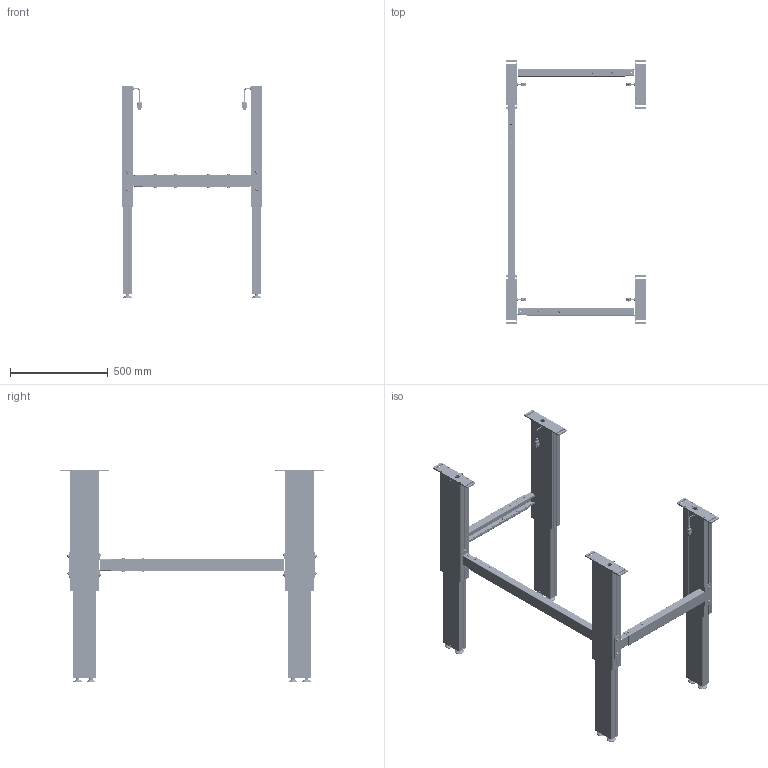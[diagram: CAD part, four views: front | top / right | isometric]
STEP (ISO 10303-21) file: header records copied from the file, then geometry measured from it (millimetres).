
FILE_DESCRIPTION(/* description */ ('Unknown'),/* implementation_level */ '2;1');
FILE_NAME(/* name */ 'Untergestell SC 4942 900-1550_00-Ausgefahren',/* time_stamp */ '2026-02-11T17:35:37+01:00',/* author */ ('Unknown'),/* organization */ ('Unknown'),/* preprocessor_version */ 'ST-DEVELOPER v20',/* originating_system */ 'Solid Edge',/* authorisation */ 'Unknown');
FILE_SCHEMA (('AUTOMOTIVE_DESIGN {1 0 10303 214 3 1 1}'));
Length unit declared in the file: millimetre
Products named in the file (40): Untergestell SC 4942 900-1550; 922.00001_oa_0; 126.00166; 142.00166; 142.00159; 124.00129; Kabel Molex_gebogen; 119.00367; 124.00241_oa_1; 119.00368; 119.00366; 142.00343; 126.00167; 127.00634; 096596~1; 096597~1; Sechskantmutter M6 DIN 934; Scheibe Ø6,4 DIN 125; Halbrundkopfschraube mit Innensechskant M8x12 ISO 7380-1; Scheibe Ø8,4 DIN 125; Nutenstein M8_montiert; Halbrundkopfschraube mit Innensechskant und Bund M6x16 ISO 7380-2; 922.00001_oa_2; 124.00241_oa_3; 922.00001_oa_4; 124.00241_oa_5; 127.00632; 096611~1; 096612~1; 922.00001_oa_6; 124.00241_oa_7; 113.00006; 113.00006-ohne Mutter; Mutter M10
Assembly tree (145 placements, depth 3):
  Untergestell SC 4942 900-1550
    922.00001_oa_0
      126.00166
      142.00166  x6
      142.00159  x2
      124.00129
      Kabel Molex_gebogen
      119.00367  x2
      124.00241_oa_1
      119.00368  x2
      119.00366
      142.00343
      126.00167
    127.00634  x2
      096596~1
      096597~1
      Sechskantmutter M6 DIN 934
      Scheibe Ø6,4 DIN 125
      Halbrundkopfschraube mit Innensechskant M8x12 ISO 7380-1
      Scheibe Ø8,4 DIN 125
      Nutenstein M8_montiert
      Halbrundkopfschraube mit Innensechskant und Bund M6x16 ISO 7380-2
    922.00001_oa_2
      126.00166
      142.00166  x6
      142.00159  x2
      124.00129
      Kabel Molex_gebogen
      119.00367  x2
      124.00241_oa_3
      119.00368  x2
      119.00366
      142.00343
      126.00167
    922.00001_oa_4
      126.00166
      142.00166  x6
      142.00159  x2
      124.00129
      Kabel Molex_gebogen
      119.00367  x2
      124.00241_oa_5
      119.00368  x2
      119.00366
      142.00343
      126.00167
    127.00632
      096611~1
      096612~1
      Sechskantmutter M6 DIN 934  x4
      Scheibe Ø6,4 DIN 125  x4
      Halbrundkopfschraube mit Innensechskant M8x12 ISO 7380-1  x4
      Scheibe Ø8,4 DIN 125  x4
      Nutenstein M8_montiert  x4
      Halbrundkopfschraube mit Innensechskant und Bund M6x16 ISO 7380-2  x4
    922.00001_oa_6
      126.00166
      142.00166  x6
      142.00159  x2
      124.00129
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Bounding box: 720 x 1350 x 1088 mm (x, y, z)
Volume: 9678081.9 mm3; surface area: 6219646.8 mm2
Topology: 166 solids, 166 shells, 6716 faces, 17362 edges, 11302 vertices
Faces by surface type: plane 3536, cylinder 2172, torus 472, bspline 296, cone 228, sphere 12
Full cylindrical faces by diameter (mm): 2.459 x4, 4 x12, 4.5 x12, 5 x32, 5.3 x8, 5.5 x16, 6 x28, 6.3 x16, 6.4 x12, 6.647 x12, 7 x32, 8 x24, 8.376 x16, 8.5 x64, 8.7 x24, 9 x4, 9.5 x8, 10 x12, 12 x12, 13.6 x12, 14 x12, 15 x8, 16.8 x12, 19 x8, 24.5 x4, 25 x8, 29 x8, 35 x8, 39 x8, 47 x8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
Entity records: 53763 total; most frequent: CARTESIAN_POINT 11563, DIRECTION 7555, ORIENTED_EDGE 7344, EDGE_CURVE 3672, AXIS2_PLACEMENT_3D 2688, VERTEX_POINT 2481, LINE 2179, VECTOR 2179
